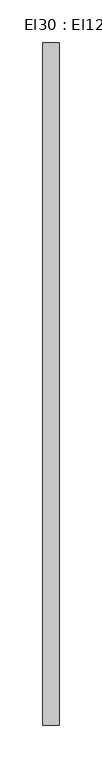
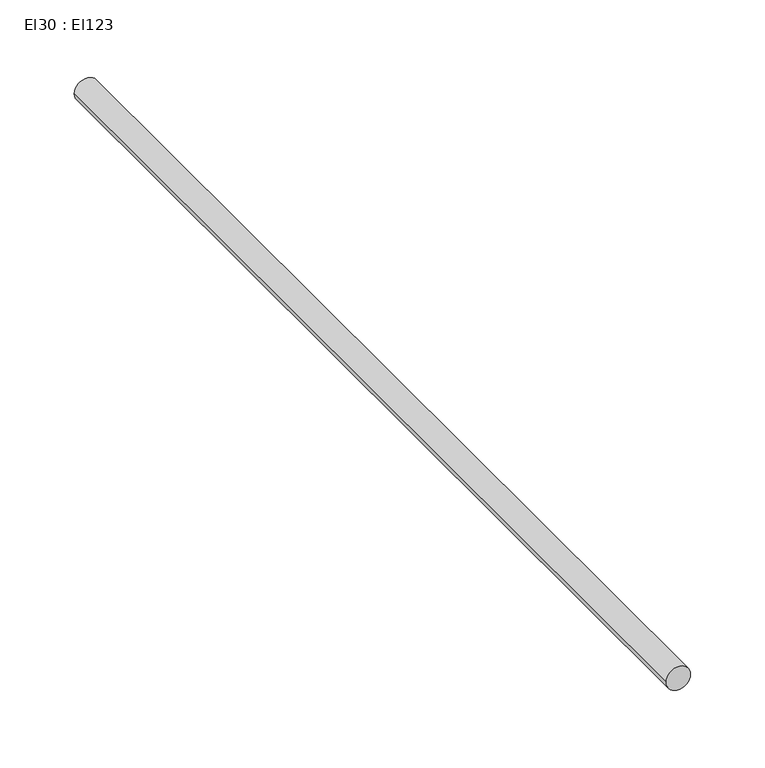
"""IFC4 building model written with IfcOpenShell, lengths in millimetres: cable carrier segment geometry, El30 : El123."""

from ifc_helpers import new_model, si_unit, point, frame, frame_2d, origin, place, context, project, spatial, circle_curve, trimmed, segment, composite_curve, outline, extrude, source, transform, mapped, element, save


def el30_el123_b5c9b7e5(model_context):
    return source(origin(), model_context, "Body", "SweptSolid", [
        extrude(outline(composite_curve([segment(trimmed(circle_curve(frame_2d((1800.0, 31444.4746511)), 9.5), [point((1800.0, 31434.9746511))], [point((1800.0, 31453.9746511))], False, "CARTESIAN"), True, "CONTINUOUS"), segment(trimmed(circle_curve(frame_2d((1800.0, 31444.4746511)), 9.5), [point((1800.0, 31453.9746511))], [point((1800.0, 31434.9746511))], False, "CARTESIAN"), True, "CONTINUOUS")], self_intersect=False)), frame((0.0, 2341.6521745, 0.0), z_axis=(0.0, 1.0, 0.0), x_axis=(0.0, 0.0, 1.0)), (0.0, 0.0, 1.0), 797.719),
    ])


if __name__ == "__main__":
    model = new_model("IFC4")
    model_context = context("Model", 3, world=origin())
    ifc_project = project(units=[si_unit("LENGTHUNIT", "METRE", prefix="MILLI")], contexts=[model_context])
    site = spatial("IfcSite", under=ifc_project)
    building = spatial("IfcBuilding", under=site)
    placement = place(None, origin())
    el30_el123_shape = el30_el123_b5c9b7e5(model_context)
    element("IfcCableCarrierSegment", 1, ObjectType="El30 : El123", at=placement, inside=building, context=model_context, shape_type="MappedRepresentation", body=[
        mapped(el30_el123_shape, transform((0.0, 0.0, 0.0), x_axis=(1.0, 0.0, 0.0), y_axis=(0.0, 1.0, 0.0), z_axis=(0.0, 0.0, 1.0))),
    ])
    save(model, "model.ifc")
